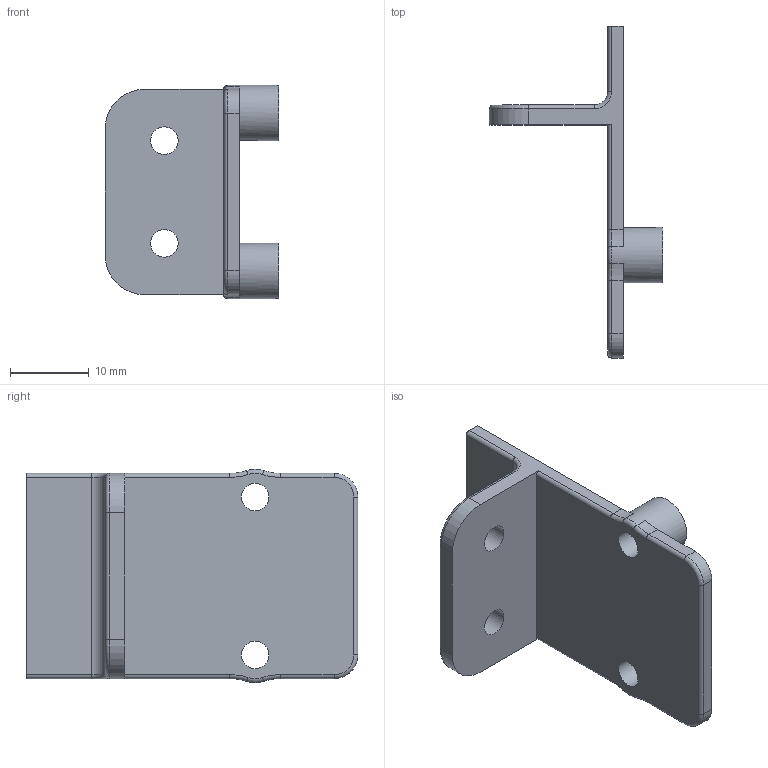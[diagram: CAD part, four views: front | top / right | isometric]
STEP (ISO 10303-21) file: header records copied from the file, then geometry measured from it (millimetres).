
FILE_DESCRIPTION(/* description */ (''),/* implementation_level */ '2;1');
FILE_NAME(/* name */ 'C:\Users\Banwz\Desktop\ВИМ\Теплица\Вер. 0.5\САЙТ\Перпендикулярное крепление.stp',/* time_stamp */ '2023-05-04T00:08:30+03:00',/* author */ ('Banwz'),/* organization */ (''),/* preprocessor_version */ 'ST-DEVELOPER v18.1',/* originating_system */ 'Autodesk Inventor 2021',/* authorisation */ '');
FILE_SCHEMA (('AUTOMOTIVE_DESIGN { 1 0 10303 214 3 1 1 }'));
Length unit declared in the file: millimetre
Products named in the file (1): Перпендикулярное 
крепление
Bounding box: 22 x 42 x 27 mm (x, y, z)
Volume: 3340.1 mm3; surface area: 3573.3 mm2
Topology: 1 solids, 1 shells, 51 faces, 127 edges, 78 vertices
Faces by surface type: cylinder 25, plane 14, torus 12
Full cylindrical faces by diameter (mm): 3.5 x4, 7 x2
Entity records: 1588 total; most frequent: DIRECTION 301, CARTESIAN_POINT 257, ORIENTED_EDGE 254, EDGE_CURVE 127, AXIS2_PLACEMENT_3D 122, VERTEX_POINT 78, CIRCLE 70, EDGE_LOOP 59
